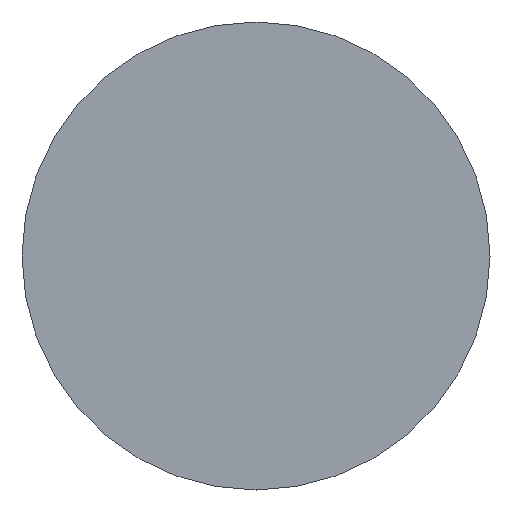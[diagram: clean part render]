
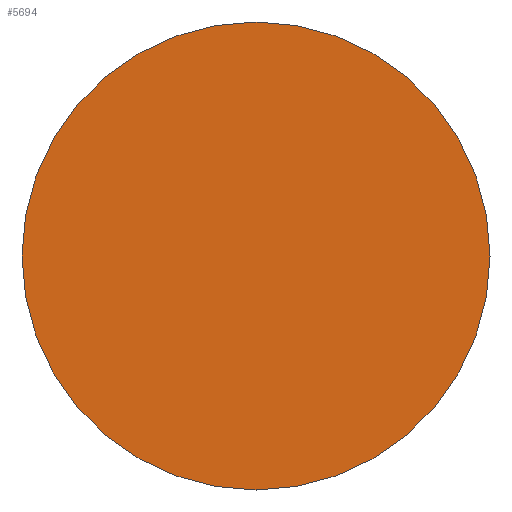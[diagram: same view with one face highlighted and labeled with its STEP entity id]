
A CAD part, front view. The second image highlights one B-rep face of the part: STEP entity #5694.
In plain terms, the highlighted planar face has unit normal (0, -1, 0).
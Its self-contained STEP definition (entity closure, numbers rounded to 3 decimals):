
#383 = DIRECTION ( 'NONE',  ( 0., 1., 0. ) ) ;
#920 = AXIS2_PLACEMENT_3D ( 'NONE', #5838, #5019, #4204 ) ;
#1187 = CARTESIAN_POINT ( 'NONE',  ( 0., 0., 0. ) ) ;
#1591 = FACE_OUTER_BOUND ( 'NONE', #6485, .T. ) ;
#1782 = DIRECTION ( 'NONE',  ( -1., 0., 0. ) ) ;
#1945 = AXIS2_PLACEMENT_3D ( 'NONE', #1187, #383, #7478 ) ;
#2251 = CIRCLE ( 'NONE', #1945, 25. ) ;
#2591 = DIRECTION ( 'NONE',  ( 0., 1., 0. ) ) ;
#2813 = AXIS2_PLACEMENT_3D ( 'NONE', #3404, #2591, #1782 ) ;
#3404 = CARTESIAN_POINT ( 'NONE',  ( 25., 0., 0. ) ) ;
#4204 = DIRECTION ( 'NONE',  ( -1., 0., 0. ) ) ;
#4416 = VERTEX_POINT ( 'NONE', #6058 ) ;
#4693 = CARTESIAN_POINT ( 'NONE',  ( -25., 0., 0. ) ) ;
#5019 = DIRECTION ( 'NONE',  ( 0., 1., 0. ) ) ;
#5241 = EDGE_CURVE ( 'NONE', #7470, #4416, #2251, .T. ) ;
#5343 = ORIENTED_EDGE ( 'NONE', *, *, #7908, .F. ) ;
#5694 = ADVANCED_FACE ( 'NONE', ( #1591 ), #6664, .F. ) ;
#5838 = CARTESIAN_POINT ( 'NONE',  ( 0., 0., 0. ) ) ;
#6046 = ORIENTED_EDGE ( 'NONE', *, *, #5241, .F. ) ;
#6058 = CARTESIAN_POINT ( 'NONE',  ( 25., 0., 0. ) ) ;
#6485 = EDGE_LOOP ( 'NONE', ( #6046, #5343 ) ) ;
#6664 = PLANE ( 'NONE',  #2813 ) ;
#6931 = CIRCLE ( 'NONE', #920, 25. ) ;
#7470 = VERTEX_POINT ( 'NONE', #4693 ) ;
#7478 = DIRECTION ( 'NONE',  ( -1., 0., 0. ) ) ;
#7908 = EDGE_CURVE ( 'NONE', #4416, #7470, #6931, .T. ) ;
